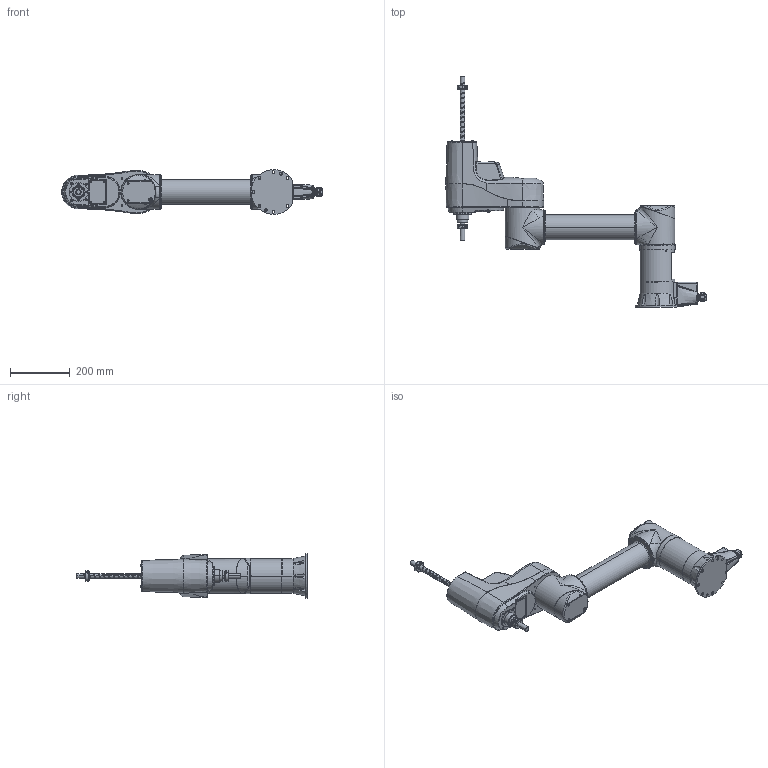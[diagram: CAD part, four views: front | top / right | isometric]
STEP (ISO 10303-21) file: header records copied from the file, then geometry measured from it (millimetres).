
FILE_DESCRIPTION((''),'2;1');
FILE_NAME('ZRB_0465N_15A_ASM','2022-12-14T16:55:13',('ChoSeongHee'),(''),'CREO PARAMETRIC BY PTC INC, 2022244','CREO PARAMETRIC BY PTC INC, 2022244','');
FILE_SCHEMA(('CONFIG_CONTROL_DESIGN'));
Length unit declared in the file: millimetre
Products named in the file (5): BASE_ASM; MIDDLE_ASM; TOP_ASM; SCREW_ASM; ZRB_0465N_15A_ASM
Assembly tree (4 placements, depth 2):
  ZRB_0465N_15A_ASM
    BASE_ASM
    MIDDLE_ASM
    TOP_ASM
    SCREW_ASM
Bounding box: 869.54 x 767.8 x 148.99 mm (x, y, z)
Volume: 12807824.7 mm3; surface area: 652710.8 mm2
Topology: 4 solids, 14 shells, 3791 faces, 9776 edges, 6034 vertices
Faces by surface type: plane 1374, cylinder 1108, cone 714, bspline 395, torus 163, sphere 20, extrusion 17
Entity records: 195550 total; most frequent: CARTESIAN_POINT 109412, ORIENTED_EDGE 19172, DIRECTION 15963, EDGE_CURVE 9586, AXIS2_PLACEMENT_3D 6051, VERTEX_POINT 6034, EDGE_LOOP 4102, VECTOR 3861
